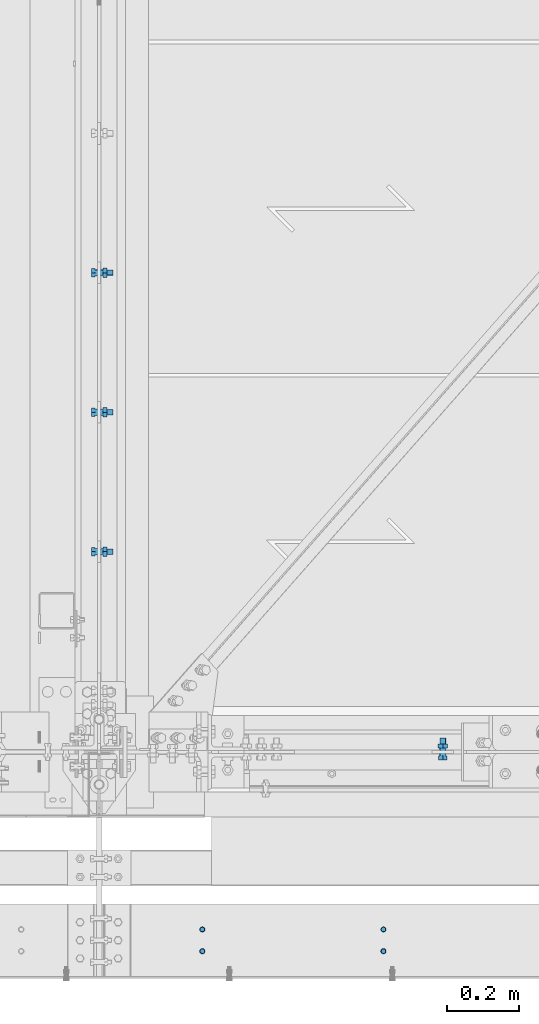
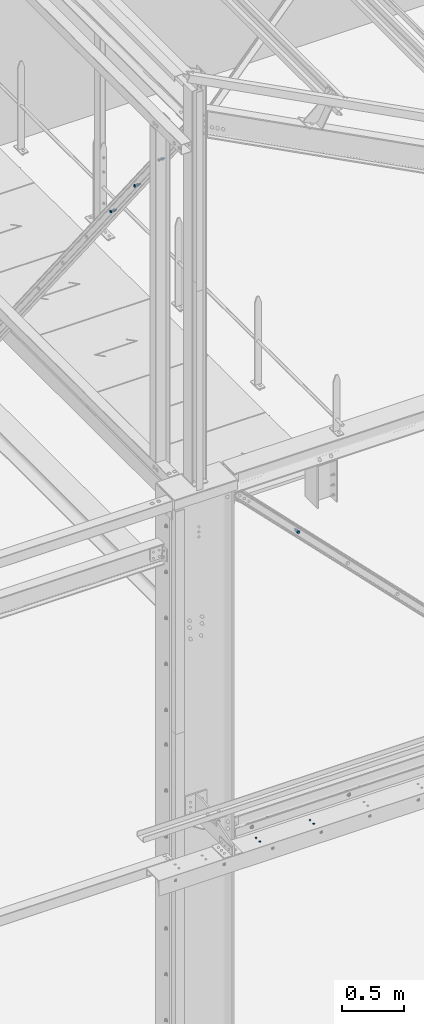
# One storey, part 221 of 362: 6 mechanical fasteners.
"""IFC2X3 building model written with IfcOpenShell, lengths in millimetres."""

from ifc_helpers import new_model, si_unit, frame, origin_with_axes, origin_2d_with_axis, place, context, subcontext, project, spatial, polyline, circle, outline, extrude, source, transform, mapped, material, type_object, element, save


model = new_model("IFC2X3")

# Units and contexts
model_context = context("Model", 3, precision=1e-05, world=origin_with_axes())
body_context = subcontext(model_context, "Body", "Model", "MODEL_VIEW")
ifc_project = project(units=[si_unit("LENGTHUNIT", "METRE", prefix="MILLI"), si_unit("AREAUNIT", "SQUARE_METRE"), si_unit("VOLUMEUNIT", "CUBIC_METRE"), si_unit("MASSUNIT", "GRAM", prefix="KILO"), si_unit("TIMEUNIT", "SECOND"), si_unit("PLANEANGLEUNIT", "RADIAN"), si_unit("SOLIDANGLEUNIT", "STERADIAN"), si_unit("THERMODYNAMICTEMPERATUREUNIT", "DEGREE_CELSIUS"), si_unit("LUMINOUSINTENSITYUNIT", "LUMEN")], contexts=[model_context])

# Site, building, storey
site_placement = place(None, origin_with_axes())
site = spatial("IfcSite", under=ifc_project, at=site_placement, Name="Undefined", CompositionType="ELEMENT")
building_placement = place(site_placement, origin_with_axes())
building = spatial("IfcBuilding", under=site, at=building_placement, Name="Undefined", CompositionType="ELEMENT")
storey_placement = place(building_placement, origin_with_axes())
storey = spatial("IfcBuildingStorey", under=building, at=storey_placement, Name="Undefined", CompositionType="ELEMENT", Elevation=0.0)

# Mechanical fasteners
ifc_material = material(Name="8.8-SB-ZINGUE")
mechanical_fastener_type = type_object("IfcMechanicalFastenerType", Name="Bolt assembly")
shared_shape_1 = source(origin_with_axes(), body_context, "Body", "SweptSolid", [
    extrude(circle(Radius=7.0, at=origin_2d_with_axis()), frame((0.0, -8.5, 0.0), z_axis=(0.0, 1.0, 0.0), x_axis=(1.0, 0.0, 0.0)), (0.0, 0.0, 1.0), 8.6),
])
for number, where, z_axis, x_axis, name in (
    (1, (13464.9989211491, -490.0, 5229.99824538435), (-1.0, 0.0, 0.0), (0.0, -1.0, 0.0), "Bolt assembly"),
    (2, (12964.9989211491, -490.0, 5229.99824538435), (-1.0, 0.0, 0.0), (0.0, -1.0, 0.0), "Bolt assembly"),
):
    element("IfcMechanicalFastener", number, at=place(storey_placement, frame(where, z_axis=z_axis, x_axis=x_axis)), inside=storey, type_object=mechanical_fastener_type, material=ifc_material, Name=name, NominalDiameter=12.0, NominalLength=8.5, context=body_context, shape_type="MappedRepresentation", body=[
        mapped(shared_shape_1, transform((0.0, 0.0, 0.0))),
        mapped(shared_shape_1, transform((60.0, 0.0, 0.0))),
    ])
shared_shape_2 = source(origin_with_axes(), body_context, "Body", "SweptSolid", [
    extrude(circle(Radius=9.0, at=origin_2d_with_axis()), frame((0.0, -10.9000000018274, 0.0), z_axis=(0.0, 1.0, 0.0), x_axis=(1.0, 0.0, 0.0)), (0.0, 0.0, 1.0), 6.0),
    extrude(circle(Radius=9.0, at=origin_2d_with_axis()), frame((0.0, 4.9000000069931, 0.0), z_axis=(0.0, 1.0, 0.0), x_axis=(1.0, 0.0, 0.0)), (0.0, 0.0, 1.0), 6.1),
    extrude(circle(Radius=9.0, at=origin_2d_with_axis()), frame((0.0, -3.99999923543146, 0.0), z_axis=(0.0, 1.0, 0.0), x_axis=(1.0, 0.0, 0.0)), (0.0, 0.0, 1.0), 8.0),
    extrude(outline(polyline([(13.85640646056, 0.0), (6.92820323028, 12.0000000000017), (-6.92820323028, 12.0000000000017), (-13.85640646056, 0.0), (-6.92820323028, -12.0000000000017), (6.92820323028, -12.0000000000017), (13.85640646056, 0.0)])), frame((0.0, -21.5600000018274, 0.0), z_axis=(0.0, 1.0, 0.0), x_axis=(1.0, 0.0, 0.0)), (0.0, 0.0, 1.0), 10.56),
    extrude(circle(Radius=8.0, at=origin_2d_with_axis()), frame((0.0, -11.0000000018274, 0.0), z_axis=(0.0, 1.0, 0.0), x_axis=(1.0, 0.0, 0.0)), (0.0, 0.0, 1.0), 50.0),
    extrude(outline(polyline([(15.3344231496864, 0.0), (7.6672115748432, 13.2800000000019), (-7.6672115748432, 13.2800000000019), (-15.3344231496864, 0.0), (-7.6672115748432, -13.2800000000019), (7.6672115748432, -13.2800000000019), (15.3344231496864, 0.0)])), frame((0.0, 11.0000000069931, 0.0), z_axis=(0.0, 1.0, 0.0), x_axis=(1.0, 0.0, 0.0)), (0.0, 0.0, 1.0), 10.56),
])
for number, where, z_axis, x_axis, name in (
    (3, (12680.0, 552.791893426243, 11340.6336269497), (0.0, 1.0, 0.0), (0.0, 0.0, 1.0), "Bolt assembly"),
    (4, (12680.0, 937.709284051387, 10855.7383048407), (0.0, 1.0, 0.0), (0.0, 0.0, 1.0), "Bolt assembly"),
    (5, (12680.0, 1322.62667467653, 10370.8429827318), (0.0, 1.0, 0.0), (0.0, 0.0, 1.0), "Bolt assembly"),
    (6, (13629.0189118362, 0.0, 7703.67692556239), (1.0, 0.0, 0.0), (0.0, 0.0, -1.0), "Bolt assembly"),
):
    element("IfcMechanicalFastener", number, at=place(storey_placement, frame(where, z_axis=z_axis, x_axis=x_axis)), inside=storey, type_object=mechanical_fastener_type, material=ifc_material, Name=name, NominalDiameter=16.0, NominalLength=50.0, context=body_context, shape_type="MappedRepresentation", body=[
        mapped(shared_shape_2, transform((0.0, 0.0, 0.0))),
    ])

save(model, "model.ifc")
